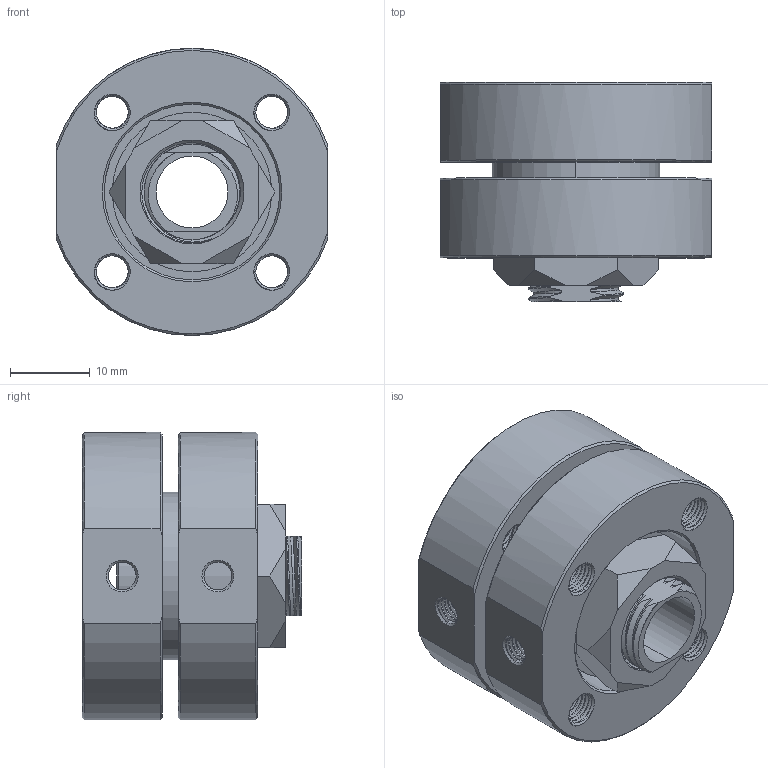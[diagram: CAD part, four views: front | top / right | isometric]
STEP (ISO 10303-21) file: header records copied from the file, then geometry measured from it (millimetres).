
FILE_DESCRIPTION (( 'STEP AP214' ), '1' );
FILE_NAME ('HG313.STEP', '2023-07-21T07:04:53', ( '' ), ( '' ), 'SwSTEP 2.0', 'SolidWorks 2019', '' );
FILE_SCHEMA (( 'AUTOMOTIVE_DESIGN' ));
Length unit declared in the file: millimetre
Products named in the file (3): M12蹟譫; HG313; 錨璃1
Assembly tree (2 placements, depth 2):
  HG313
    錨璃1
    M12蹟譫
Bounding box: 34 x 27.5 x 36 mm (x, y, z)
Volume: 15866.8 mm3; surface area: 11728 mm2
Topology: 3 solids, 3 shells, 622 faces, 1789 edges, 1179 vertices
Faces by surface type: cylinder 424, bspline 103, cone 49, plane 46
Entity records: 110766 total; most frequent: CARTESIAN_POINT 97340, ORIENTED_EDGE 3578, DIRECTION 1846, EDGE_CURVE 1789, VERTEX_POINT 1179, EDGE_LOOP 658, AXIS2_PLACEMENT_3D 653, FACE_OUTER_BOUND 622
